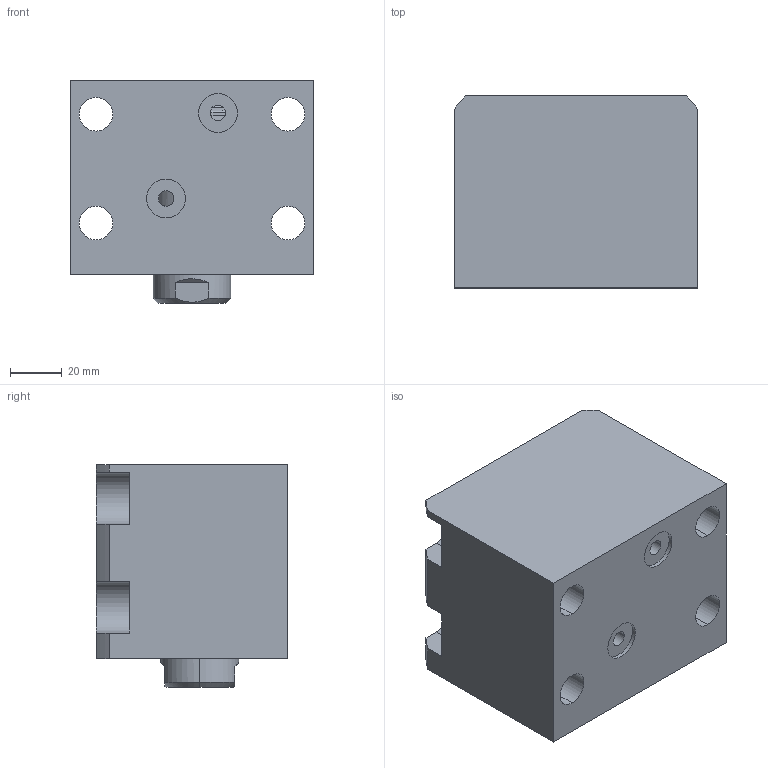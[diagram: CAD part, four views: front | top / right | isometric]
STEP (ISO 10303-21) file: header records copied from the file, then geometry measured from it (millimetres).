
FILE_DESCRIPTION (( 'STEP AP203' ), '1' );
FILE_NAME ('CHTB-LAM50-15N.STEP', '2018-05-23T09:25:50', ( '' ), ( '' ), 'SwSTEP 2.0', 'SolidWorks 2015', '' );
FILE_SCHEMA (( 'CONFIG_CONTROL_DESIGN' ));
Length unit declared in the file: millimetre
Products named in the file (4): CHTM-SDMA50QG; 活塞杆LAM50-15N; 掛极LAM50-15N; CHTB-LAM50-15N
Assembly tree (3 placements, depth 2):
  CHTB-LAM50-15N
    掛极LAM50-15N
    活塞杆LAM50-15N
    CHTM-SDMA50QG
Bounding box: 94 x 74 x 86 mm (x, y, z)
Volume: 444598.4 mm3; surface area: 90674.6 mm2
Topology: 3 solids, 3 shells, 179 faces, 489 edges, 325 vertices
Faces by surface type: cylinder 93, plane 41, torus 16, cone 15, bspline 14
Entity records: 10612 total; most frequent: CARTESIAN_POINT 5886, ORIENTED_EDGE 966, DIRECTION 841, EDGE_CURVE 483, AXIS2_PLACEMENT_3D 337, VERTEX_POINT 325, EDGE_LOOP 208, ADVANCED_FACE 179
